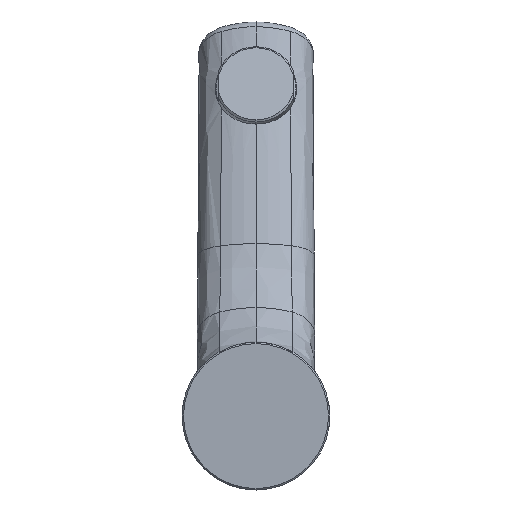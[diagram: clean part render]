
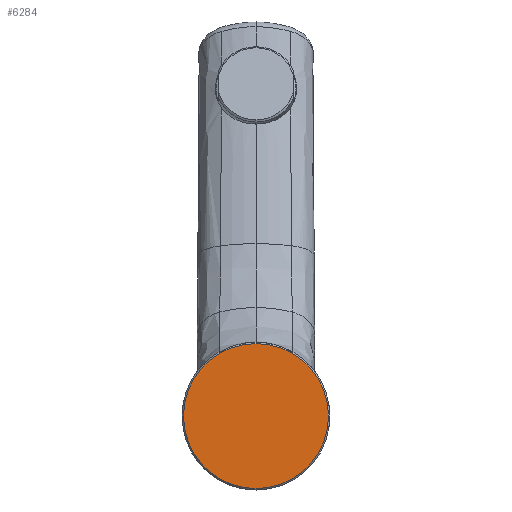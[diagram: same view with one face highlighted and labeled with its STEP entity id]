
A CAD part, front view. The second image highlights one B-rep face of the part: STEP entity #6284.
In plain terms, the highlighted planar face has unit normal (0, -1, 0).
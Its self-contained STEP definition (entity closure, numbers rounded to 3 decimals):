
#838 = PLANE ( 'NONE',  #8271 ) ;
#1070 = VERTEX_POINT ( 'NONE', #8071 ) ;
#2584 = DIRECTION ( 'NONE',  ( 0., 1., 0. ) ) ;
#2728 = DIRECTION ( 'NONE',  ( 0., 1., 0. ) ) ;
#3109 = AXIS2_PLACEMENT_3D ( 'NONE', #6541, #2728, #7156 ) ;
#3417 = CIRCLE ( 'NONE', #5299, 25.25 ) ;
#3688 = DIRECTION ( 'NONE',  ( 0., -1., 0. ) ) ;
#4410 = FACE_OUTER_BOUND ( 'NONE', #7584, .T. ) ;
#4706 = ORIENTED_EDGE ( 'NONE', *, *, #7512, .F. ) ;
#5256 = CARTESIAN_POINT ( 'NONE',  ( -0.611, 0., -25.25 ) ) ;
#5299 = AXIS2_PLACEMENT_3D ( 'NONE', #6416, #2584, #7035 ) ;
#6284 = ADVANCED_FACE ( 'NONE', ( #4410 ), #838, .T. ) ;
#6348 = CIRCLE ( 'NONE', #3109, 25.25 ) ;
#6416 = CARTESIAN_POINT ( 'NONE',  ( -0.611, 0., 0. ) ) ;
#6541 = CARTESIAN_POINT ( 'NONE',  ( -0.611, 0., 0. ) ) ;
#7035 = DIRECTION ( 'NONE',  ( 0., 0., 1. ) ) ;
#7156 = DIRECTION ( 'NONE',  ( 0., 0., 1. ) ) ;
#7394 = CARTESIAN_POINT ( 'NONE',  ( -0.611, 0., -20.642 ) ) ;
#7512 = EDGE_CURVE ( 'NONE', #7903, #1070, #3417, .T. ) ;
#7584 = EDGE_LOOP ( 'NONE', ( #7764, #4706 ) ) ;
#7764 = ORIENTED_EDGE ( 'NONE', *, *, #7958, .F. ) ;
#7903 = VERTEX_POINT ( 'NONE', #5256 ) ;
#7958 = EDGE_CURVE ( 'NONE', #1070, #7903, #6348, .T. ) ;
#8001 = DIRECTION ( 'NONE',  ( 0., 0., -1. ) ) ;
#8071 = CARTESIAN_POINT ( 'NONE',  ( -0.611, 0., 25.25 ) ) ;
#8271 = AXIS2_PLACEMENT_3D ( 'NONE', #7394, #3688, #8001 ) ;
